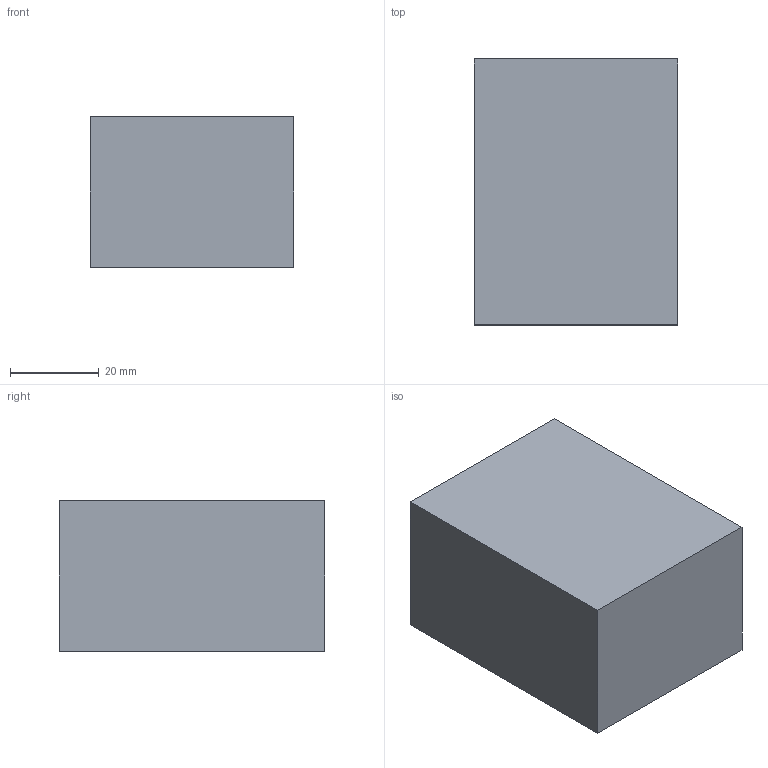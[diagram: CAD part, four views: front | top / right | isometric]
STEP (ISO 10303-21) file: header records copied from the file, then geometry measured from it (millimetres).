
FILE_DESCRIPTION(('Open CASCADE Model'),'2;1');
FILE_NAME('Open CASCADE Shape Model','2026-10-10T15:34:57',('Author'),( 'Open CASCADE'),'Open CASCADE STEP processor 7.9','Open CASCADE 7.9' ,'Unknown');
FILE_SCHEMA(('AUTOMOTIVE_DESIGN { 1 0 10303 214 1 1 1 1 }'));
Length unit declared in the file: millimetre
Products named in the file (1): Open CASCADE STEP translator 7.9 7
Bounding box: 46 x 60 x 34 mm (x, y, z)
Volume: 93840 mm3; surface area: 12728 mm2
Topology: 1 solids, 1 shells, 6 faces, 12 edges, 8 vertices
Faces by surface type: plane 6
Entity records: 322 total; most frequent: CARTESIAN_POINT 51, DIRECTION 50, LINE 36, VECTOR 36, ORIENTED_EDGE 24, PCURVE 24, DEFINITIONAL_REPRESENTATION 24, EDGE_CURVE 12
